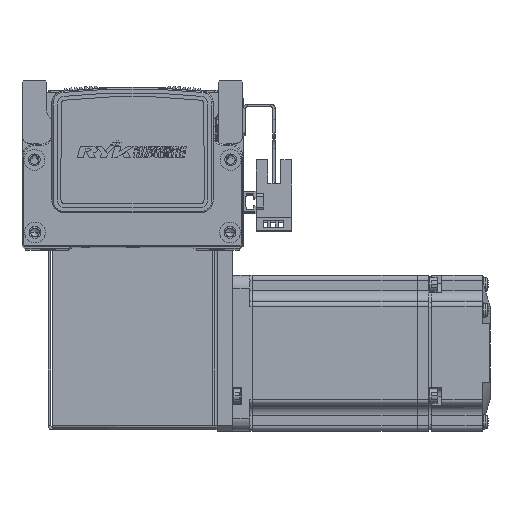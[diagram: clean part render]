
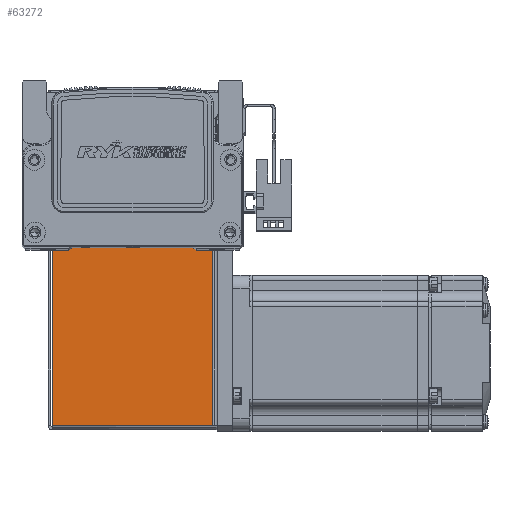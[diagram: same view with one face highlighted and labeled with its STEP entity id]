
A CAD part, top view. The second image highlights one B-rep face of the part: STEP entity #63272.
In plain terms, the highlighted planar face has unit normal (0, 0, 1).
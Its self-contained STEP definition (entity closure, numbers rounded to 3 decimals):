
#7481 = EDGE_LOOP ( 'NONE', ( #19693, #19703, #19626, #19627 ) ) ;
#11728 = EDGE_CURVE ( 'NONE', #15434, #15399, #51011, .T. ) ;
#11770 = EDGE_CURVE ( 'NONE', #15434, #15353, #51021, .T. ) ;
#11775 = EDGE_CURVE ( 'NONE', #15353, #15559, #49948, .T. ) ;
#11909 = EDGE_CURVE ( 'NONE', #15399, #15559, #53229, .T. ) ;
#15353 = VERTEX_POINT ( 'NONE', #62399 ) ;
#15399 = VERTEX_POINT ( 'NONE', #62486 ) ;
#15434 = VERTEX_POINT ( 'NONE', #62480 ) ;
#15559 = VERTEX_POINT ( 'NONE', #62593 ) ;
#19626 = ORIENTED_EDGE ( 'NONE', *, *, #11775, .F. ) ;
#19627 = ORIENTED_EDGE ( 'NONE', *, *, #11770, .F. ) ;
#19693 = ORIENTED_EDGE ( 'NONE', *, *, #11728, .T. ) ;
#19703 = ORIENTED_EDGE ( 'NONE', *, *, #11909, .T. ) ;
#37142 = FACE_OUTER_BOUND ( 'NONE', #7481, .T. ) ;
#42708 = PLANE ( 'NONE',  #43853 ) ;
#42730 = DIRECTION ( 'NONE',  ( -1., 0., 0. ) ) ;
#42740 = CARTESIAN_POINT ( 'NONE',  ( 0., 0., 35. ) ) ;
#42797 = DIRECTION ( 'NONE',  ( 0., 0., -1. ) ) ;
#43853 = AXIS2_PLACEMENT_3D ( 'NONE', #42740, #42797, #42730 ) ;
#49948 = LINE ( 'NONE', #52108, #50021 ) ;
#50021 = VECTOR ( 'NONE', #52104, 1000. ) ;
#50974 = VECTOR ( 'NONE', #52133, 1000. ) ;
#50988 = VECTOR ( 'NONE', #52097, 1000. ) ;
#51011 = LINE ( 'NONE', #52070, #50988 ) ;
#51021 = LINE ( 'NONE', #52102, #50974 ) ;
#52070 = CARTESIAN_POINT ( 'NONE',  ( 30.763, 0.737, 35. ) ) ;
#52097 = DIRECTION ( 'NONE',  ( 0., 1., 0. ) ) ;
#52102 = CARTESIAN_POINT ( 'NONE',  ( -32.5, 0.737, 35. ) ) ;
#52104 = DIRECTION ( 'NONE',  ( 0., 1., 0. ) ) ;
#52108 = CARTESIAN_POINT ( 'NONE',  ( -30.793, 0., 35. ) ) ;
#52133 = DIRECTION ( 'NONE',  ( -1., 0., 0. ) ) ;
#52315 = CARTESIAN_POINT ( 'NONE',  ( 0., 72.5, 35. ) ) ;
#52334 = DIRECTION ( 'NONE',  ( -1., 0., 0. ) ) ;
#53193 = VECTOR ( 'NONE', #52334, 1000. ) ;
#53229 = LINE ( 'NONE', #52315, #53193 ) ;
#62399 = CARTESIAN_POINT ( 'NONE',  ( -30.793, 0.737, 35. ) ) ;
#62480 = CARTESIAN_POINT ( 'NONE',  ( 30.763, 0.737, 35. ) ) ;
#62486 = CARTESIAN_POINT ( 'NONE',  ( 30.763, 72.5, 35. ) ) ;
#62593 = CARTESIAN_POINT ( 'NONE',  ( -30.793, 72.5, 35. ) ) ;
#63272 = ADVANCED_FACE ( 'NONE', ( #37142 ), #42708, .F. ) ;
